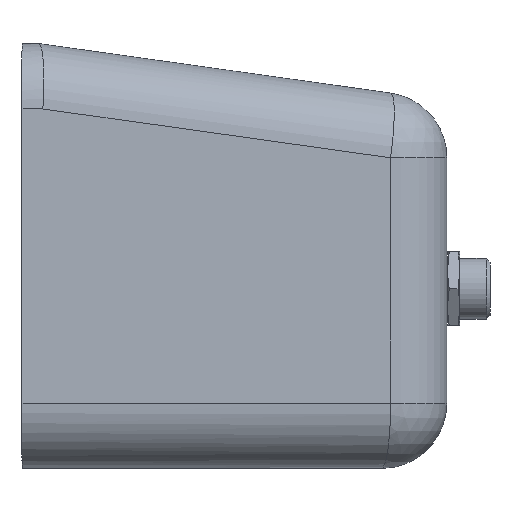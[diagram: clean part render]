
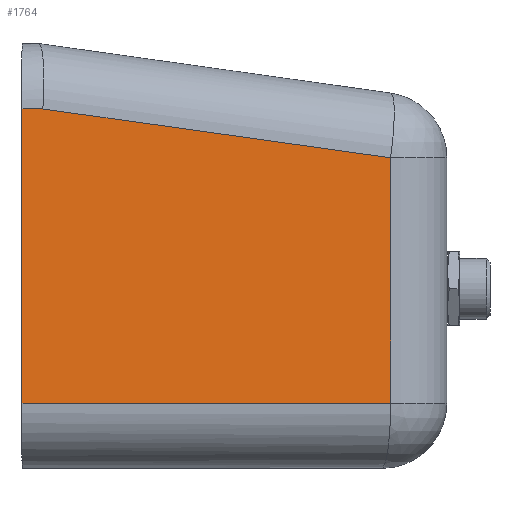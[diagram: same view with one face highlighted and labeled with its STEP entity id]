
A CAD part, left-side view. The second image highlights one B-rep face of the part: STEP entity #1764.
In plain terms, the highlighted planar face has unit normal (-0.99, -0.139, 0).
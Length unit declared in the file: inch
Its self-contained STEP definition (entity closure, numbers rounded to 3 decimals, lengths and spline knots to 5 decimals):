
#240=PLANE('',#1915);
#330=VECTOR('',#2217,1.);
#332=VECTOR('',#2223,1.);
#340=VECTOR('',#2257,1.);
#342=VECTOR('',#2263,1.);
#344=VECTOR('',#2268,1.);
#453=LINE('',#2733,#330);
#455=LINE('',#2738,#332);
#463=LINE('',#2767,#340);
#465=LINE('',#2773,#342);
#467=LINE('',#2778,#344);
#581=VERTEX_POINT('',#2724);
#583=VERTEX_POINT('',#2732);
#584=VERTEX_POINT('',#2734);
#591=VERTEX_POINT('',#2758);
#593=VERTEX_POINT('',#2770);
#801=EDGE_CURVE('',#583,#584,#453,.T.);
#804=EDGE_CURVE('',#584,#581,#455,.T.);
#819=EDGE_CURVE('',#581,#591,#463,.T.);
#822=EDGE_CURVE('',#591,#593,#465,.T.);
#824=EDGE_CURVE('',#593,#583,#467,.T.);
#1173=ORIENTED_EDGE('',*,*,#801,.F.);
#1174=ORIENTED_EDGE('',*,*,#824,.F.);
#1175=ORIENTED_EDGE('',*,*,#822,.F.);
#1176=ORIENTED_EDGE('',*,*,#819,.F.);
#1177=ORIENTED_EDGE('',*,*,#804,.F.);
#1518=EDGE_LOOP('',(#1173,#1174,#1175,#1176,#1177));
#1645=FACE_BOUND('',#1518,.T.);
#1764=ADVANCED_FACE('',(#1645),#240,.F.);
#1915=AXIS2_PLACEMENT_3D('',#2777,#2267,$);
#2217=DIRECTION('',(0.139,-0.99,0.));
#2223=DIRECTION('',(0.138,-0.981,-0.138));
#2257=DIRECTION('',(0.,0.,-1.));
#2263=DIRECTION('',(-0.139,0.99,0.));
#2267=DIRECTION('',(0.99,0.139,0.));
#2268=DIRECTION('',(0.,0.,1.));
#2724=CARTESIAN_POINT('',(-2.29123,-2.81959,-0.87383));
#2732=CARTESIAN_POINT('',(-2.6875,0.,-0.5));
#2733=CARTESIAN_POINT('',(-2.569,-0.84314,-0.5));
#2734=CARTESIAN_POINT('',(-2.66507,-0.15962,-0.5));
#2738=CARTESIAN_POINT('',(-2.50471,-1.30065,-0.66036));
#2758=CARTESIAN_POINT('',(-2.29123,-2.81959,-2.75));
#2767=CARTESIAN_POINT('',(-2.29123,-2.81959,0.98879));
#2770=CARTESIAN_POINT('',(-2.6875,0.,-2.75));
#2773=CARTESIAN_POINT('',(-2.46133,-1.60926,-2.75));
#2777=CARTESIAN_POINT('',(-2.45912,-1.625,3.82217));
#2778=CARTESIAN_POINT('',(-2.6875,0.,-3.25));
